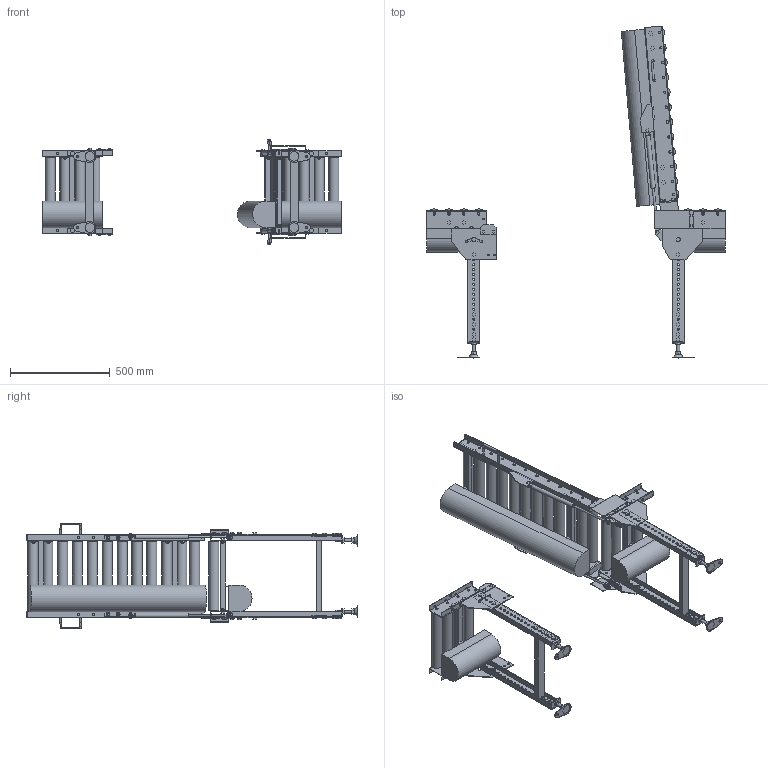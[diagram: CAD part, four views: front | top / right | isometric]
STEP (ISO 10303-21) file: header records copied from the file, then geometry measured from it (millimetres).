
FILE_DESCRIPTION (( 'STEP AP214' ), '1' );
FILE_NAME ('MCD50HU-R-355-75-900.STEP', '2022-11-17T07:54:23', ( '' ), ( '' ), 'SwSTEP 2.0', 'SolidWorks 2017', '' );
FILE_SCHEMA (( 'AUTOMOTIVE_DESIGN' ));
Length unit declared in the file: millimetre
Products named in the file (1): MCD50HU-R-355-75-900
Bounding box: 1500 x 1665.85 x 531.39 mm (x, y, z)
Volume: 39921031.1 mm3; surface area: 4198456.6 mm2
Topology: 5 solids, 31 shells, 2618 faces, 6540 edges, 4161 vertices
Faces by surface type: plane 2139, cylinder 461, cone 10, torus 8
Full cylindrical faces by diameter (mm): 8 x8, 8.5 x8, 9 x20, 10 x58, 10.5 x96, 11 x8, 12 x42, 13 x12, 14 x4, 15 x6, 15.4 x2, 15.7 x2, 16 x10, 17 x4, 18 x6, 18.4 x28, 18.5 x8, 21 x12, 22 x2, 50.8 x20
Entity records: 75838 total; most frequent: CARTESIAN_POINT 12962, DIRECTION 12690, ORIENTED_EDGE 11964, EDGE_CURVE 5982, LINE 4504, VECTOR 4504, AXIS2_PLACEMENT_3D 4093, VERTEX_POINT 3977
